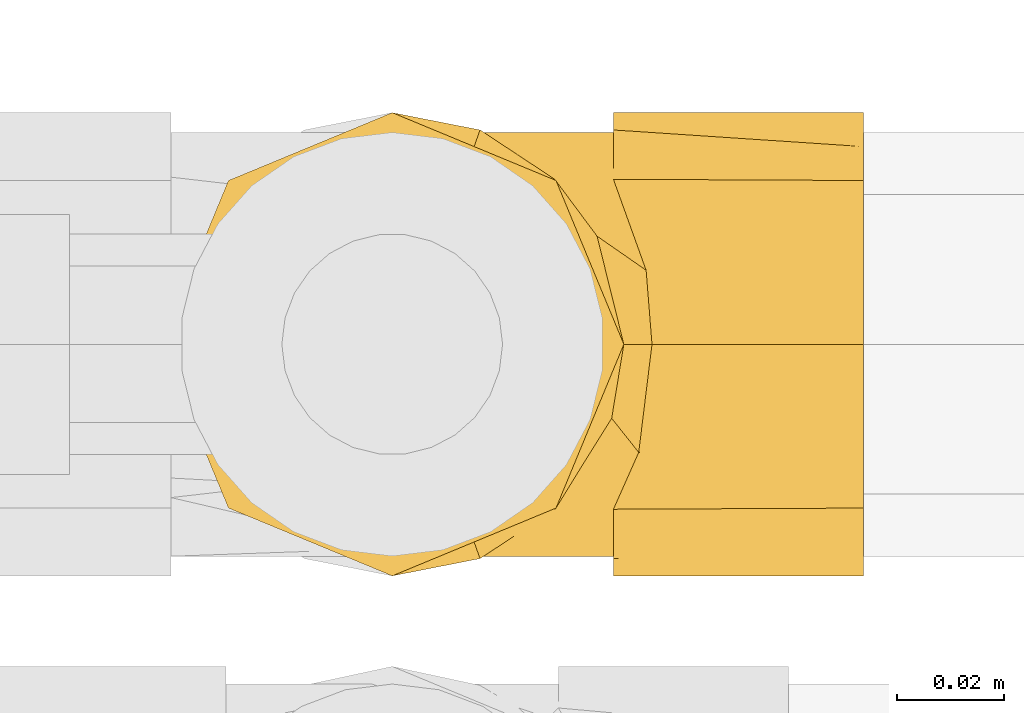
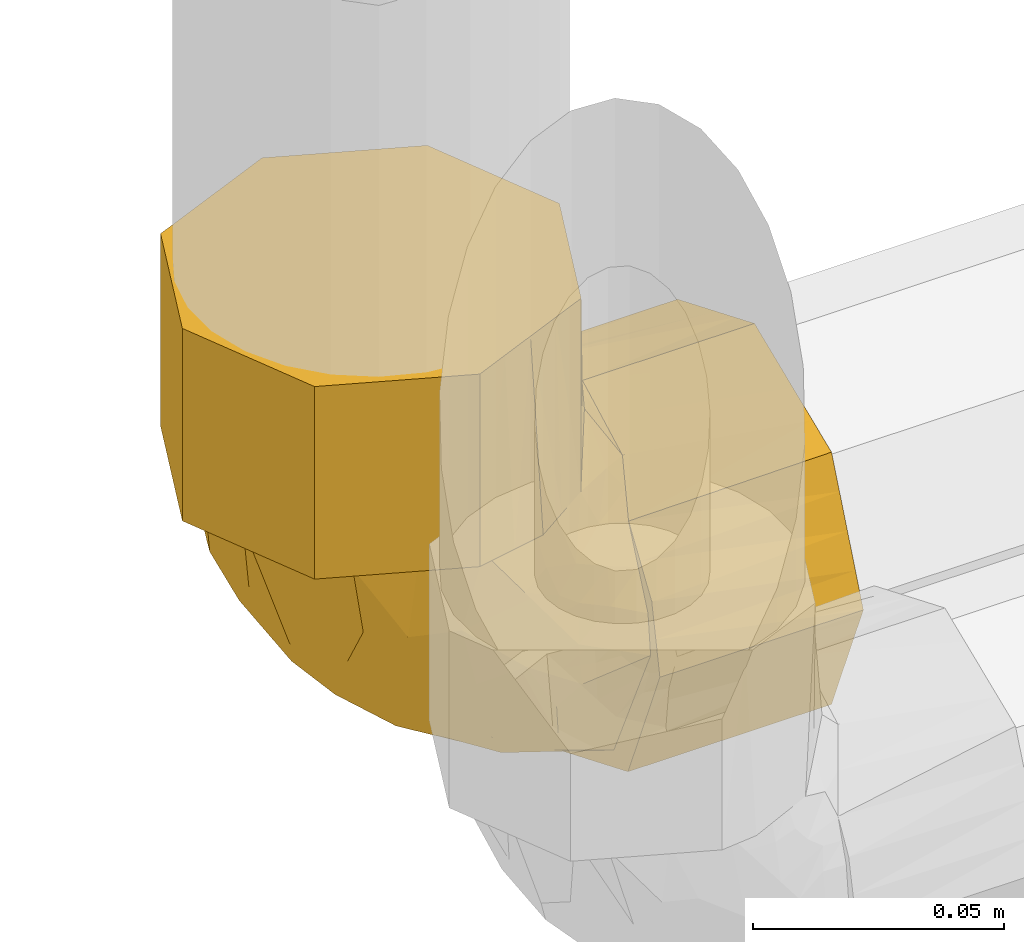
# One storey, part 184 of 652: 1 covering.
"""IFC2X3 building model written with IfcOpenShell, lengths in millimetres."""

from ifc_helpers import new_model, entity, si_unit, converted_unit, direction, frame, origin, place, context, subcontext, project, spatial, faceted_brep, material, type_object, element, save


model = new_model("IFC2X3")

# Units and contexts
model_context = context("Model", 3, precision=0.01, world=frame((0.0, 0.0, 308426.39999999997)), true_north=direction((6.123233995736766e-17, 1.0)))
plan_context = context("Plan", 3, precision=0.01, world=frame((0.0, 0.0, 308426.39999999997)), true_north=direction((6.123233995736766e-17, 1.0)))
body_context = subcontext(model_context, "Body", "Model", "MODEL_VIEW")
ifc_project = project(units=[si_unit("LENGTHUNIT", "METRE", prefix="MILLI"), si_unit("AREAUNIT", "SQUARE_METRE"), si_unit("VOLUMEUNIT", "CUBIC_METRE"), converted_unit("PLANEANGLEUNIT", "DEGREE", entity("IfcPlaneAngleMeasure", 0.017453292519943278), si_unit("PLANEANGLEUNIT", "RADIAN"), dimensions=[0, 0, 0, 0, 0, 0, 0])], contexts=[model_context, plan_context])

# Site, building, storey
site_placement = place(None, origin())
site = spatial("IfcSite", under=ifc_project, at=site_placement, Name="Default", CompositionType="ELEMENT")
building_placement = place(site_placement, origin())
building = spatial("IfcBuilding", under=site, at=building_placement, CompositionType="ELEMENT")
storey_placement = place(building_placement, frame((0.0, 0.0, 1730.6999999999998)))
storey = spatial("IfcBuildingStorey", under=building, at=storey_placement, Name="EG_Produktion_FFB", CompositionType="ELEMENT", Elevation=1730.6999999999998)

# Covering
ifc_material = material(Name="Dämmung - Armaflex-Schlauch")
covering_type = type_object("IfcCoveringType", Name="Rohrdämmung außen:Armaflex-Schlauch", PredefinedType="INSULATION")
covering_placement = place(storey_placement, frame((69455.0907277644, 41580.089177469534, 2653.070674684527)))
element("IfcCovering", 1, at=covering_placement, inside=storey, type_object=covering_type, material=ifc_material, Name="Rohrdämmung außen:Armaflex-Schlauch", ObjectType="Rohrdämmung außen:Armaflex-Schlauch", PredefinedType="INSULATION", context=body_context, shape_type="Brep", body=[
    faceted_brep([(86.27477223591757, 1.5952722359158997, -88.11775000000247), (86.27477223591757, 3.21402764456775, -79.90225228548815), (86.27477223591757, 4.832783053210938, -71.6867545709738), (86.27477223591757, 9.44499511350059, -64.7014901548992), (86.27477223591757, 14.057207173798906, -57.716225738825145), (86.27477223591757, 10.189917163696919, -66.55955447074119), (86.27477223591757, 6.322627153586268, -75.40288320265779), (86.27477223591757, 5.271772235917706, -85.04966346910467), (86.27477223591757, 8.801210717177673, -92.72698145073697), (86.27477223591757, 12.330649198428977, -100.40429943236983), (86.27477223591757, 16.11426416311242, -108.63450810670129), (86.27477223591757, 19.897879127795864, -116.86471678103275), (86.27477223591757, 28.598847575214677, -120.0196415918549), (86.27477223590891, 36.75405990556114, -122.97667814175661), (86.27477223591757, 44.909272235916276, -125.93371469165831), (86.27477223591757, 52.722214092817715, -122.03577136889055), (86.27477223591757, 60.53515594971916, -118.13782804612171), (86.27477223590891, 68.34809780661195, -114.23988472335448), (86.27477223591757, 76.16103966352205, -110.34194140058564), (86.27477223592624, 79.16192692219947, -101.29094031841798), (86.27477223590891, 81.85434957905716, -93.17030189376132), (86.27477223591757, 84.54677223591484, -85.04966346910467), (86.27477223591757, 83.74827741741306, -81.34938260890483), (86.27477223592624, 82.94978259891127, -77.64910174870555), (86.27477223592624, 81.71182968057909, -71.91234130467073), (86.27477223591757, 80.47387676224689, -66.17558086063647), (86.27477223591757, 75.76133729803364, -57.716225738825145), (86.27477223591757, 80.37354935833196, -64.7014901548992), (86.27477223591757, 84.9857614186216, -71.6867545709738), (86.27477223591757, 86.43872402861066, -79.06082167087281), (86.27477223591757, 88.22327223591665, -88.11775000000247), (86.27477223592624, 84.75898186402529, -96.48128679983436), (86.27477223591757, 81.88008379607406, -103.43156156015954), (86.27477223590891, 78.70848957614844, -111.08846734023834), (86.27477223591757, 75.53689535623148, -118.7453731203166), (86.27477223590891, 67.87998957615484, -121.9169673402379), (86.27477223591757, 60.223083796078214, -125.08856156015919), (86.27477223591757, 53.27280775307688, -127.96746015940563), (86.27477223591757, 44.909272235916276, -131.43175000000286), (86.27477223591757, 36.54573552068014, -127.96745966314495), (86.27477223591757, 29.59546067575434, -125.08856156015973), (86.27477223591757, 21.938554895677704, -121.91696734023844), (86.27477223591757, 14.281649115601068, -118.74537312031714), (86.27477223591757, 11.110054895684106, -111.08846734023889), (86.27477223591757, 7.938460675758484, -103.43156156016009), (86.27477223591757, 5.059562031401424, -96.4812854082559), (133.02702223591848, 44.909272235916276, -131.43175000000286), (133.02702223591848, 52.56617801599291, -128.26015578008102), (133.02702223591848, 60.223083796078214, -125.08856156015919), (133.02702223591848, 67.87998957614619, -121.9169673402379), (133.02702223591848, 75.53689535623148, -118.7453731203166), (133.02702223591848, 78.41579328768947, -111.79509868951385), (133.02702223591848, 81.29469121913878, -104.8448242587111), (133.0270222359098, 84.75898172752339, -96.48128712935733), (133.02702223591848, 88.22327223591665, -88.11775000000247), (133.02702223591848, 85.05167801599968, -80.46084421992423), (133.02702223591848, 81.88008379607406, -72.80393843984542), (133.02702223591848, 78.70848957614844, -65.14703265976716), (133.02702223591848, 75.53689535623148, -57.490126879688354), (133.02702223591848, 67.87998957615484, -54.318532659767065), (133.02702223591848, 60.223083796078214, -51.14693843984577), (133.02702223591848, 52.56617801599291, -47.97534421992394), (133.02702223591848, 44.909272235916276, -44.803750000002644), (133.02702223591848, 36.54573690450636, -48.26803976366), (133.02702223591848, 29.59546067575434, -51.14693843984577), (133.02702223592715, 21.938554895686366, -54.318532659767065), (133.02702223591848, 14.281649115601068, -57.490126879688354), (133.02702223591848, 11.110054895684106, -65.14703265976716), (133.02702223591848, 7.938460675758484, -72.80393843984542), (133.02702223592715, 4.766866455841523, -80.46084421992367), (133.02702223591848, 1.5952722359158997, -88.11775000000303), (133.02702223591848, 4.766866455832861, -95.77465578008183), (133.02702223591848, 7.938460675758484, -103.43156156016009), (133.02702223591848, 11.110054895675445, -111.08846734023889), (133.02702223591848, 14.281649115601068, -118.74537312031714), (133.02702223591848, 21.938554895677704, -121.91696734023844), (133.02702223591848, 29.59546067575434, -125.08856156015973), (133.02702223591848, 37.25236645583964, -128.26015578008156), (92.39161487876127, 58.75537900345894, -47.07645465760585), (92.72308548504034, 54.574402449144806, -46.390187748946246), (93.4893434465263, 44.909272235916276, -44.803750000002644), (89.33319355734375, 67.25835815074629, -52.39634019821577), (92.24819953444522, 34.80170281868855, -47.307090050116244), (91.00705562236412, 24.694133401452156, -49.810430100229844), (88.64091392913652, 19.375670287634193, -53.76332791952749), (44.909272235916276, 1.5952722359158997, -46.75224999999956), (36.54573603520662, 5.059562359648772, -46.75224999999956), (28.1821998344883, 8.523852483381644, -46.75224999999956), (21.231924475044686, 11.402750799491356, -46.7522500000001), (14.281649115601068, 14.281649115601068, -46.75224999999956), (11.110054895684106, 21.938554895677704, -46.75224999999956), (7.938460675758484, 29.59546067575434, -46.75224999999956), (5.059562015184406, 36.545736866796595, -46.75224999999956), (1.5952722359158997, 44.909272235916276, -46.75224999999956), (5.05956248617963, 53.27280874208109, -46.75224999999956), (7.938460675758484, 60.223083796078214, -46.75224999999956), (11.110054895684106, 67.87998957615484, -46.75224999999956), (14.281649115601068, 75.53689535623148, -46.75224999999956), (21.938554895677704, 78.70848957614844, -46.75224999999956), (29.59546067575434, 81.88008379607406, -46.75224999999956), (36.54573637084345, 84.75898225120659, -46.75224999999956), (44.909272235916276, 88.22327223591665, -46.75224999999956), (53.966202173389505, 86.43872569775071, -46.75224999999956), (61.340250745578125, 84.98576835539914, -46.75224999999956), (68.32552362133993, 80.37355282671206, -46.75224999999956), (75.31079649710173, 75.76133729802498, -46.75224999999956), (66.46746776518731, 79.62862730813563, -46.75224999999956), (57.624139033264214, 83.49591731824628, -46.75224999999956), (47.977358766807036, 84.54677223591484, -46.75224999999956), (40.02359543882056, 80.89024551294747, -46.75224999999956), (32.06983211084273, 77.2337187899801, -46.75224999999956), (24.11606878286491, 73.57719206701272, -46.75224999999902), (16.162305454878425, 69.92066534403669, -46.75224999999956), (11.627806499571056, 57.414968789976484, -46.75224999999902), (10.050344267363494, 53.06448504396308, -46.75224999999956), (7.093307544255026, 44.909272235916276, -46.75224999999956), (10.991250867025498, 37.09633037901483, -46.75224999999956), (14.889194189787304, 29.283388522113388, -46.75224999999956), (18.787137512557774, 21.47044666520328, -46.7522500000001), (22.685080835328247, 13.6575048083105, -46.75224999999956), (35.33121980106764, 9.464638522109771, -46.75224999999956), (47.977358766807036, 5.271772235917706, -46.75224999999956), (51.67764005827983, 6.070267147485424, -46.75224999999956), (55.37792134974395, 6.868762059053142, -46.75224999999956), (61.11468136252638, 8.106714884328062, -46.75224999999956), (66.85144137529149, 9.344667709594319, -46.75224999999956), (75.31079649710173, 14.05720717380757, -46.75224999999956), (68.32552362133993, 9.44499164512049, -46.75224999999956), (61.340250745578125, 4.83277611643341, -46.75224999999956), (53.96620094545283, 3.3798185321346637, -46.75224999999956), (88.22327223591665, 44.909272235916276, 0.0), (84.75898246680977, 53.27280758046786, 0.0), (81.88008379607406, 60.223083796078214, 0.0), (78.70848957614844, 67.87998957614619, 0.0), (75.53689535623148, 75.53689535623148, 0.0), (67.87998957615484, 78.70848957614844, 0.0), (60.223083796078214, 81.88008379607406, 0.0), (52.56617801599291, 85.05167801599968, 0.0), (44.909272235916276, 88.22327223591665, 0.0), (37.25236645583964, 85.05167801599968, 0.0), (29.59546067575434, 81.8800837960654, 0.0), (21.938554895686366, 78.7084895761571, 0.0), (14.281649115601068, 75.53689535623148, 0.0), (11.4027511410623, 68.58662082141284, 0.0), (8.523853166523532, 61.636346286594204, 0.0), (5.059562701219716, 53.272809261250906, 0.0), (1.5952722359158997, 44.909272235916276, 0.0), (4.766866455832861, 37.25236645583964, 0.0), (7.938460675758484, 29.59546067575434, 0.0), (11.110054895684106, 21.938554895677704, 0.0), (14.281649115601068, 14.281649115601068, 0.0), (21.938554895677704, 11.110054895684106, 0.0), (29.59546067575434, 7.938460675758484, 0.0), (37.25236645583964, 4.766866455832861, 0.0), (44.909272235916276, 1.5952722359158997, 0.0), (52.56617801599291, 4.766866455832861, 0.0), (60.223083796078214, 7.938460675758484, 0.0), (67.87998957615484, 11.110054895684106, 0.0), (75.53689535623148, 14.281649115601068, 0.0), (78.7084895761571, 21.938554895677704, 0.0), (81.8800837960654, 29.59546067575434, 0.0), (85.05167801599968, 37.25236645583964, 0.0), (88.22327223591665, 44.909272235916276, -39.53767878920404), (85.71993218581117, 55.016841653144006, -40.77882270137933), (83.21659213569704, 65.12441107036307, -42.01996661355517), (79.26369431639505, 70.44287418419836, -44.386108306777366), (85.9505675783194, 31.063165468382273, -40.635407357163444), (86.63683451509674, 35.24414219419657, -40.303936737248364), (80.63068203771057, 22.56018632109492, -43.693828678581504), (59.00702437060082, 81.09318334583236, -88.7342954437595), (40.774519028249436, 80.35462521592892, -71.80233442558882), (53.14689646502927, 83.62783125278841, -72.73171129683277), (66.6465202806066, 77.29128021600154, -101.46918686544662), (51.63313701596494, 64.2599094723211, -106.10858534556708), (43.08373948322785, 54.28195365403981, -104.62433945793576), (37.02131540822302, 63.722662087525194, -94.19573320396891), (41.79478775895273, 74.64394109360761, -86.6221419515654), (68.5994420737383, 65.33151838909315, -114.66824963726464), (68.369874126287, 83.68905092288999, -85.54000769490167), (19.457763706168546, 53.254009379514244, -77.34212049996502), (12.671024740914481, 53.21106991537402, -63.108838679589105), (15.757507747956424, 59.68883166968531, -65.48441634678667), (64.54760757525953, 54.90746421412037, -117.68107501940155), (60.88326927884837, 71.24492500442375, -106.0303070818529), (69.69467833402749, 84.54677223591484, -76.51750923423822), (24.87346118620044, 71.08909930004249, -68.4770444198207), (30.406426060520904, 77.47444134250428, -63.495342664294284), (71.37519469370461, 44.909272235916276, -116.84576107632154), (30.250301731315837, 56.49800005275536, -91.22297922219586), (26.676462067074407, 44.909272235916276, -89.58190023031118), (16.884884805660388, 44.909272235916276, -68.16707511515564), (15.257114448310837, 44.909272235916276, -64.60703401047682), (56.47561715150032, 44.909272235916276, -107.75780746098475), (45.75001504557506, 69.82577363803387, -96.83815184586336), (41.57603960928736, 44.909272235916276, -98.66985384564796), (24.97846845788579, 62.77103932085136, -79.91196653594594), (33.12068544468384, 69.36834535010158, -84.11181017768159), (52.66636649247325, 84.54677223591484, -53.17889625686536), (57.355374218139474, 84.54677223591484, -59.605542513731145), (58.83601855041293, 84.54677223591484, -61.63487961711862), (63.525026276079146, 84.54677223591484, -68.06152587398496), (77.98472528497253, 84.54677223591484, -80.78358635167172), (82.69494815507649, 84.54677223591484, -83.20747781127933), (76.76607882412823, 83.21561390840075, -69.04670125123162), (78.47075535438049, 77.57009588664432, -54.556266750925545), (79.81672477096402, 80.01647633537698, -61.11186851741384), (72.36144172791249, 82.50076779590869, -62.409136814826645), (90.617862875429, 44.909272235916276, -42.4091593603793), (84.55846897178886, 69.11943588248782, -48.018516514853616), (62.424241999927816, 83.42582518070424, -55.41828837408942), (70.33989982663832, 80.87166183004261, -54.0007736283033), (66.44091790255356, 83.31704110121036, -60.14265850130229), (77.75316620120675, 6.36983714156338, -70.80808668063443), (79.1151240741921, 5.271772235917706, -81.36529215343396), (85.00850621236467, 20.699109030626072, -48.46855326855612), (78.50079160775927, 12.277698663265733, -54.52623050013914), (70.60396120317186, 7.774699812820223, -58.74435758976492), (78.4647266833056, 8.780218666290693, -62.718384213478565), (70.42529171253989, 6.031535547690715, -67.20716304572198), (65.67912818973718, 5.8858975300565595, -63.60418390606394), (50.32186262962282, 5.271772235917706, -49.96557312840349), (52.66636649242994, 5.271772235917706, -53.17889625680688), (57.355374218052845, 5.271772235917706, -59.605542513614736), (63.52502627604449, 5.271772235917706, -68.06152587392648), (63.00262370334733, 6.411600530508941, -56.15572771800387), (69.69467833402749, 5.271772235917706, -76.51750923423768), (58.83601855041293, 5.271772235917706, -61.63487961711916), (71.51170717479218, 17.88358938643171, -110.48953732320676), (69.01116982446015, 12.125086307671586, -102.01509896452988), (56.701226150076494, 16.90165112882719, -101.6278383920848), (43.98287164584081, 6.9647082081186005, -65.19910851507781), (46.38350960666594, 37.456410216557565, -107.69923858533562), (41.55313402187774, 21.961010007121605, -95.05710334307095), (63.24935143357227, 24.76338004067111, -112.39514387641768), (66.35650053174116, 8.181328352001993, -92.18182718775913), (71.09733306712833, 6.1333731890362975, -87.21494597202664), (26.304606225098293, 15.727702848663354, -64.7097016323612), (39.69496521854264, 15.418239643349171, -84.69214179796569), (33.85362436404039, 10.995633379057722, -65.71529073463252), (58.27323202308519, 6.282339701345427, -78.6211214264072), (48.64795700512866, 9.351008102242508, -81.21836113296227), (19.562414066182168, 33.31902489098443, -75.81996252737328), (32.226075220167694, 37.185424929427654, -94.9318271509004), (29.05455087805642, 30.50188918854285, -88.21869424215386), (65.09145612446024, 35.010191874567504, -117.9535321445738), (26.029711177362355, 21.40322444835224, -75.03858447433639), (40.905739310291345, 30.26940447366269, -100.58448414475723)], [[[0, 1, 2, 3, 4, 5, 6, 7, 8, 9, 10, 11, 12, 13, 14, 15, 16, 17, 18, 19, 20, 21, 22, 23, 24, 25, 26, 27, 28, 29, 30, 31, 32, 33, 34, 35, 36, 37, 38, 39, 40, 41, 42, 43, 44, 45]], [[46, 47, 48, 49, 50, 51, 52, 53, 54, 55, 56, 57, 58, 59, 60, 61, 62, 63, 64, 65, 66, 67, 68, 69, 70, 71, 72, 73, 74, 75, 76, 77]], [[26, 58, 57]], [[27, 26, 57]], [[61, 78, 79, 80]], [[30, 29, 55]], [[78, 60, 81]], [[29, 56, 55]], [[56, 28, 27]], [[30, 55, 54]], [[56, 27, 57]], [[56, 29, 28]], [[61, 80, 62]], [[58, 81, 60, 59]], [[61, 60, 78]], [[58, 26, 81]], [[31, 30, 54, 53, 52, 51, 50, 34, 33, 32]], [[34, 50, 49, 48, 47, 46, 38, 37, 36, 35]], [[0, 45, 44, 43, 42, 74, 73, 72, 71, 70]], [[76, 75, 74, 42, 41, 40, 39, 38, 46, 77]], [[70, 1, 0]], [[3, 2, 68]], [[82, 64, 63]], [[4, 67, 66]], [[3, 68, 67]], [[65, 83, 84, 4]], [[64, 82, 83]], [[68, 2, 69]], [[1, 70, 69]], [[63, 80, 82]], [[69, 2, 1]], [[67, 4, 3]], [[63, 62, 80]], [[65, 4, 66]], [[65, 64, 83]], [[85, 86, 87, 88, 89, 90, 91, 92, 93, 94, 95, 96, 97, 98, 99, 100, 101, 102, 103, 104, 105, 106, 107, 108, 109, 110, 111, 112, 113, 114, 115, 116, 117, 118, 119, 120, 121, 122, 123, 124, 125, 126, 127, 128, 129]], [[130, 131, 132, 133, 134, 135, 136, 137, 138, 139, 140, 141, 142, 143, 144, 145, 146, 147, 148, 149, 150, 151, 152, 153, 154, 155, 156, 157, 158, 159, 160, 161]], [[144, 143, 142, 97, 96, 95, 94, 93, 146, 145]], [[97, 142, 141, 140, 139, 138, 101, 100, 99, 98]], [[136, 102, 137]], [[105, 135, 134]], [[131, 130, 162]], [[101, 137, 102]], [[104, 136, 135]], [[104, 103, 136]], [[132, 163, 164]], [[163, 132, 131]], [[133, 164, 165, 105]], [[131, 162, 163]], [[101, 138, 137]], [[135, 105, 104]], [[102, 136, 103]], [[133, 105, 134]], [[133, 132, 164]], [[161, 162, 130]], [[85, 129, 155]], [[161, 166, 167, 162]], [[156, 128, 127]], [[166, 160, 168]], [[129, 156, 155]], [[157, 156, 127]], [[85, 155, 154]], [[158, 168, 160, 159]], [[156, 129, 128]], [[161, 160, 166]], [[158, 126, 168]], [[126, 157, 127]], [[126, 158, 157]], [[150, 89, 88, 87, 86, 85, 154, 153, 152, 151]], [[89, 150, 149, 148, 147, 146, 93, 92, 91, 90]], [[169, 170, 171]], [[19, 172, 169]], [[173, 174, 175]], [[176, 170, 169]], [[17, 16, 177]], [[21, 20, 178]], [[179, 180, 181]], [[182, 177, 16]], [[178, 20, 169]], [[19, 18, 172]], [[18, 17, 183]], [[20, 19, 169]], [[184, 178, 171]], [[185, 186, 176]], [[176, 169, 172]], [[176, 172, 183]], [[15, 187, 182]], [[183, 17, 177]], [[186, 111, 110]], [[175, 174, 188]], [[179, 189, 190, 191]], [[182, 173, 177]], [[183, 177, 173]], [[182, 16, 15]], [[173, 182, 174]], [[182, 192, 174]], [[173, 175, 193]], [[183, 172, 18]], [[188, 194, 189]], [[189, 179, 188]], [[185, 195, 181]], [[109, 170, 110]], [[185, 112, 111]], [[170, 186, 110]], [[196, 185, 176]], [[170, 109, 171]], [[171, 108, 197, 198, 199, 200, 184]], [[176, 186, 170]], [[185, 111, 186]], [[179, 181, 195]], [[108, 171, 109]], [[185, 181, 112]], [[181, 180, 113]], [[188, 179, 195]], [[188, 195, 175]], [[174, 194, 188]], [[196, 195, 185]], [[196, 176, 193]], [[115, 114, 113, 180]], [[112, 181, 113]], [[179, 191, 180]], [[115, 180, 191]], [[171, 178, 169]], [[174, 192, 194]], [[178, 184, 201, 202, 21]], [[187, 15, 14]], [[187, 192, 182]], [[193, 176, 183]], [[195, 196, 175]], [[173, 193, 183]], [[175, 196, 193]], [[203, 25, 24]], [[204, 26, 205]], [[206, 205, 203]], [[207, 80, 79]], [[203, 200, 206]], [[208, 165, 164]], [[78, 164, 163]], [[209, 107, 106]], [[204, 205, 206]], [[204, 210, 105]], [[107, 198, 197, 108]], [[210, 204, 206]], [[210, 209, 106]], [[79, 163, 207]], [[163, 79, 78]], [[207, 163, 162]], [[209, 210, 211]], [[198, 209, 211]], [[204, 165, 208]], [[78, 81, 26, 208]], [[105, 210, 106]], [[210, 206, 211]], [[208, 26, 204]], [[107, 209, 198]], [[204, 105, 165]], [[78, 208, 164]], [[26, 25, 205]], [[203, 205, 25]], [[202, 201, 24, 23, 22, 21]], [[200, 203, 184]], [[201, 203, 24]], [[203, 201, 184]], [[206, 200, 211]], [[211, 200, 199, 198]], [[207, 82, 80]], [[212, 213, 6]], [[84, 214, 215]], [[125, 216, 126]], [[7, 6, 213]], [[4, 217, 5]], [[218, 217, 216]], [[216, 217, 215]], [[167, 166, 82]], [[216, 215, 126]], [[166, 83, 82]], [[219, 218, 216]], [[215, 217, 4]], [[84, 83, 214]], [[122, 121, 220, 221, 222, 124, 123]], [[207, 162, 167]], [[218, 219, 223]], [[125, 224, 216]], [[6, 5, 212]], [[167, 82, 207]], [[166, 168, 126, 214]], [[218, 212, 217]], [[215, 4, 84]], [[214, 126, 215]], [[166, 214, 83]], [[223, 225, 218]], [[212, 218, 225]], [[212, 225, 213]], [[217, 212, 5]], [[216, 224, 219]], [[222, 224, 124]], [[219, 222, 226, 223]], [[224, 125, 124]], [[222, 219, 224]], [[227, 228, 229]], [[230, 121, 120]], [[192, 231, 194]], [[232, 233, 229]], [[234, 8, 235]], [[236, 237, 238]], [[9, 228, 10]], [[234, 235, 239]], [[240, 234, 239]], [[119, 236, 238]], [[241, 242, 243]], [[235, 7, 213, 225]], [[227, 11, 10]], [[9, 8, 234]], [[12, 233, 244]], [[227, 233, 11]], [[230, 226, 222, 221, 220, 121]], [[238, 237, 240]], [[241, 117, 116]], [[239, 230, 240]], [[239, 226, 230]], [[240, 230, 238]], [[238, 230, 120]], [[120, 119, 238]], [[118, 245, 236]], [[241, 245, 117]], [[237, 232, 229]], [[245, 243, 232]], [[229, 240, 237]], [[187, 13, 244]], [[233, 12, 11]], [[194, 231, 242]], [[246, 244, 233]], [[244, 192, 187]], [[239, 225, 223, 226]], [[228, 240, 229]], [[9, 234, 228]], [[240, 228, 234]], [[246, 242, 231]], [[194, 242, 189]], [[245, 232, 237]], [[233, 232, 246]], [[228, 227, 10]], [[233, 227, 229]], [[116, 190, 241]], [[190, 189, 241]], [[116, 115, 191, 190]], [[192, 244, 231]], [[244, 246, 231]], [[243, 242, 246]], [[241, 189, 242]], [[232, 243, 246]], [[245, 241, 243]], [[7, 235, 8]], [[225, 239, 235]], [[118, 117, 245]], [[237, 236, 245]], [[236, 119, 118]], [[13, 187, 14]], [[13, 12, 244]]]),
])

save(model, "model.ifc")
